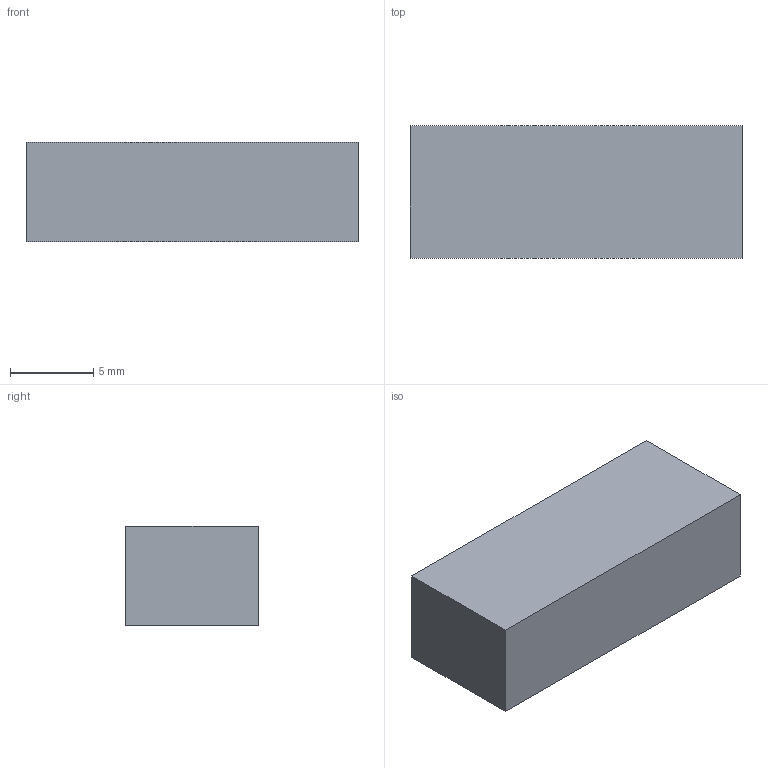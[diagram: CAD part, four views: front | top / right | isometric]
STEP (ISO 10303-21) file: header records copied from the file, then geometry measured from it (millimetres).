
FILE_DESCRIPTION(('Open CASCADE Model'),'2;1');
FILE_NAME('Open CASCADE Shape Model','2026-10-04T02:31:39',('Author'),( 'Open CASCADE'),'Open CASCADE STEP processor 8.0','Open CASCADE 8.0' ,'Unknown');
FILE_SCHEMA(('AUTOMOTIVE_DESIGN { 1 0 10303 214 1 1 1 1 }'));
Length unit declared in the file: millimetre
Products named in the file (1): Open CASCADE STEP translator 8.0 176
Bounding box: 20 x 8 x 6 mm (x, y, z)
Volume: 960 mm3; surface area: 656 mm2
Topology: 1 solids, 1 shells, 6 faces, 12 edges, 8 vertices
Faces by surface type: plane 6
Entity records: 322 total; most frequent: CARTESIAN_POINT 51, DIRECTION 50, LINE 36, VECTOR 36, ORIENTED_EDGE 24, PCURVE 24, DEFINITIONAL_REPRESENTATION 24, EDGE_CURVE 12
